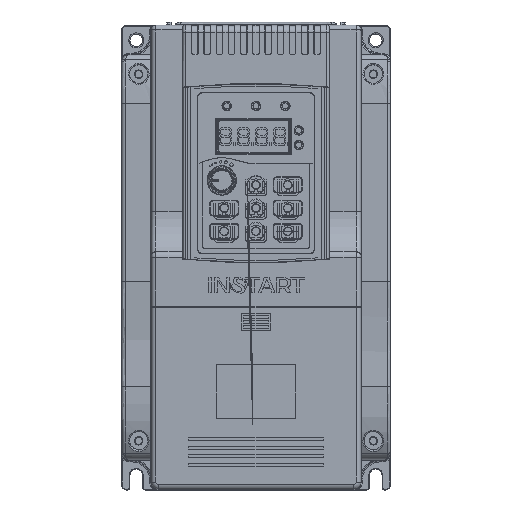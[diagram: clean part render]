
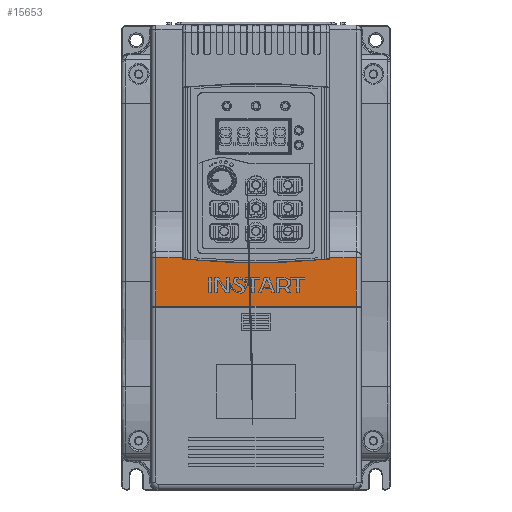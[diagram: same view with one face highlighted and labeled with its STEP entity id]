
A CAD part, top view. The second image highlights one B-rep face of the part: STEP entity #15653.
In plain terms, the highlighted planar face has unit normal (0, 0, 1).
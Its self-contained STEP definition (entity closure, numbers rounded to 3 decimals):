
#15653=ADVANCED_FACE('',(#58023),#58025,.T.);
#58023=FACE_BOUND('',#58024,.T.);
#58024=EDGE_LOOP('',(#101250,#101251,#101252,#101253,#101254,#101255,#101256,#101257));
#58025=PLANE('',#58026);
#58026=AXIS2_PLACEMENT_3D('',#58027,#58028,#58029);
#58027=CARTESIAN_POINT('',(0.,0.,78.));
#58028=DIRECTION('',(0.,0.,1.));
#58029=DIRECTION('',(1.,0.,0.));
#101250=ORIENTED_EDGE('',*,*,#123547,.F.);
#101251=ORIENTED_EDGE('',*,*,#124152,.T.);
#101252=ORIENTED_EDGE('',*,*,#124153,.T.);
#101253=ORIENTED_EDGE('',*,*,#124154,.T.);
#101254=ORIENTED_EDGE('',*,*,#124155,.T.);
#101255=ORIENTED_EDGE('',*,*,#124156,.T.);
#101256=ORIENTED_EDGE('',*,*,#124157,.T.);
#101257=ORIENTED_EDGE('',*,*,#124150,.F.);
#123547=EDGE_CURVE('',#140798,#140800,#140801,.T.);
#124150=EDGE_CURVE('',#140800,#141903,#141904,.T.);
#124152=EDGE_CURVE('',#140798,#141906,#141907,.T.);
#124153=EDGE_CURVE('',#141906,#141908,#141909,.T.);
#124154=EDGE_CURVE('',#141908,#141910,#141911,.T.);
#124155=EDGE_CURVE('',#141910,#141912,#141913,.T.);
#124156=EDGE_CURVE('',#141912,#141914,#141915,.T.);
#124157=EDGE_CURVE('',#141914,#141903,#141916,.T.);
#140798=VERTEX_POINT('',#186073);
#140800=VERTEX_POINT('',#186078);
#140801=LINE('',#186079,#186080);
#141903=VERTEX_POINT('',#192886);
#141904=LINE('',#192887,#192888);
#141906=VERTEX_POINT('',#192894);
#141907=LINE('',#192895,#192896);
#141908=VERTEX_POINT('',#192898);
#141909=LINE('',#192899,#192900);
#141910=VERTEX_POINT('',#192902);
#141911=LINE('',#192903,#192904);
#141912=VERTEX_POINT('',#192906);
#141913=CIRCLE('',#192907,300.2);
#141914=VERTEX_POINT('',#192911);
#141915=LINE('',#192912,#192913);
#141916=LINE('',#192915,#192916);
#186073=CARTESIAN_POINT('',(41.,-20.,78.));
#186078=CARTESIAN_POINT('',(-41.,-20.,78.));
#186079=CARTESIAN_POINT('',(41.,-20.,78.));
#186080=VECTOR('',#186081,1.);
#186081=DIRECTION('',(-1.,0.,0.));
#192886=CARTESIAN_POINT('',(-41.,-0.253,78.));
#192887=CARTESIAN_POINT('',(-41.,-20.,78.));
#192888=VECTOR('',#192889,1.);
#192889=DIRECTION('',(0.,1.,0.));
#192894=CARTESIAN_POINT('',(41.,-0.253,78.));
#192895=CARTESIAN_POINT('',(41.,-20.,78.));
#192896=VECTOR('',#192897,1.);
#192897=DIRECTION('',(0.,1.,0.));
#192898=CARTESIAN_POINT('',(30.2,-0.253,78.));
#192899=CARTESIAN_POINT('',(41.,-0.253,78.));
#192900=VECTOR('',#192901,1.);
#192901=DIRECTION('',(-1.,0.,0.));
#192902=CARTESIAN_POINT('',(30.2,-0.781,78.));
#192903=CARTESIAN_POINT('',(30.2,-0.253,78.));
#192904=VECTOR('',#192905,1.);
#192905=DIRECTION('',(0.,-1.,0.));
#192906=CARTESIAN_POINT('',(-30.2,-0.781,78.));
#192907=AXIS2_PLACEMENT_3D('',#192908,#192909,#192910);
#192908=CARTESIAN_POINT('',(0.,297.896,78.));
#192909=DIRECTION('',(0.,0.,-1.));
#192910=DIRECTION('',(0.101,-0.995,0.));
#192911=CARTESIAN_POINT('',(-30.2,-0.253,78.));
#192912=CARTESIAN_POINT('',(-30.2,-0.781,78.));
#192913=VECTOR('',#192914,1.);
#192914=DIRECTION('',(0.,1.,0.));
#192915=CARTESIAN_POINT('',(-30.2,-0.253,78.));
#192916=VECTOR('',#192917,1.);
#192917=DIRECTION('',(-1.,0.,0.));
